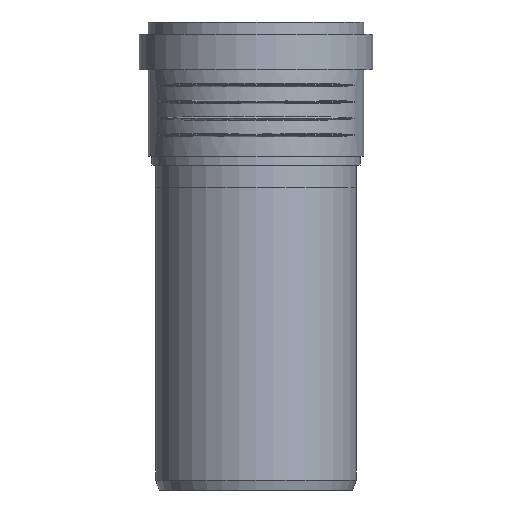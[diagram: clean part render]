
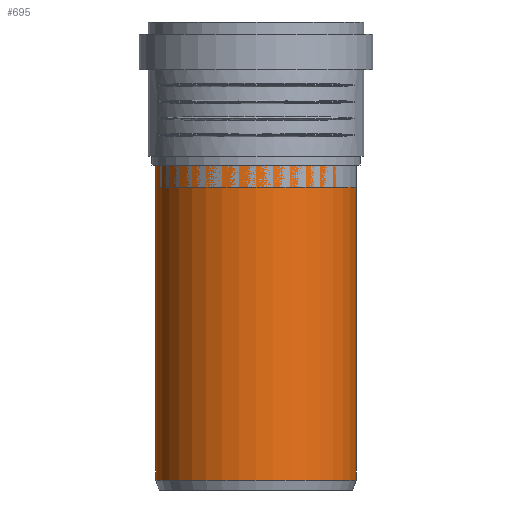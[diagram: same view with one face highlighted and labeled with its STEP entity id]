
A CAD part, front view. The second image highlights one B-rep face of the part: STEP entity #695.
In plain terms, the highlighted cylindrical face has radius 45.1 mm (diameter 90.2 mm), a full revolution.
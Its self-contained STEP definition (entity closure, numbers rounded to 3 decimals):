
#94=CYLINDRICAL_SURFACE($,#750,45.1);
#118=FACE_BOUND($,#198,.T.);
#153=FACE_OUTER_BOUND($,#197,.T.);
#197=EDGE_LOOP($,(#472));
#198=EDGE_LOOP($,(#473));
#272=CIRCLE($,#747,45.1);
#274=CIRCLE($,#751,45.1);
#311=VERTEX_POINT($,#1021);
#313=VERTEX_POINT($,#1027);
#382=EDGE_CURVE($,#311,#311,#272,.T.);
#384=EDGE_CURVE($,#313,#313,#274,.T.);
#472=ORIENTED_EDGE($,*,*,#384,.T.);
#473=ORIENTED_EDGE($,*,*,#382,.F.);
#695=ADVANCED_FACE($,(#153,#118),#94,.T.);
#747=AXIS2_PLACEMENT_3D($,#1022,#841,#842);
#750=AXIS2_PLACEMENT_3D($,#1026,#847,#848);
#751=AXIS2_PLACEMENT_3D($,#1028,#849,#850);
#841=DIRECTION('center_axis',(0.,0.,-1.));
#842=DIRECTION('ref_axis',(-1.,0.,0.));
#847=DIRECTION('center_axis',(0.,0.,1.));
#848=DIRECTION('ref_axis',(-1.,0.,0.));
#849=DIRECTION('center_axis',(0.,0.,-1.));
#850=DIRECTION('ref_axis',(-1.,0.,0.));
#1021=CARTESIAN_POINT('',(45.1,0.,-68.7));
#1022=CARTESIAN_POINT('Origin',(0.,0.,-68.7));
#1026=CARTESIAN_POINT('Origin',(0.,0.,0.));
#1027=CARTESIAN_POINT('',(45.1,0.,73.2));
#1028=CARTESIAN_POINT('Origin',(0.,0.,73.2));
